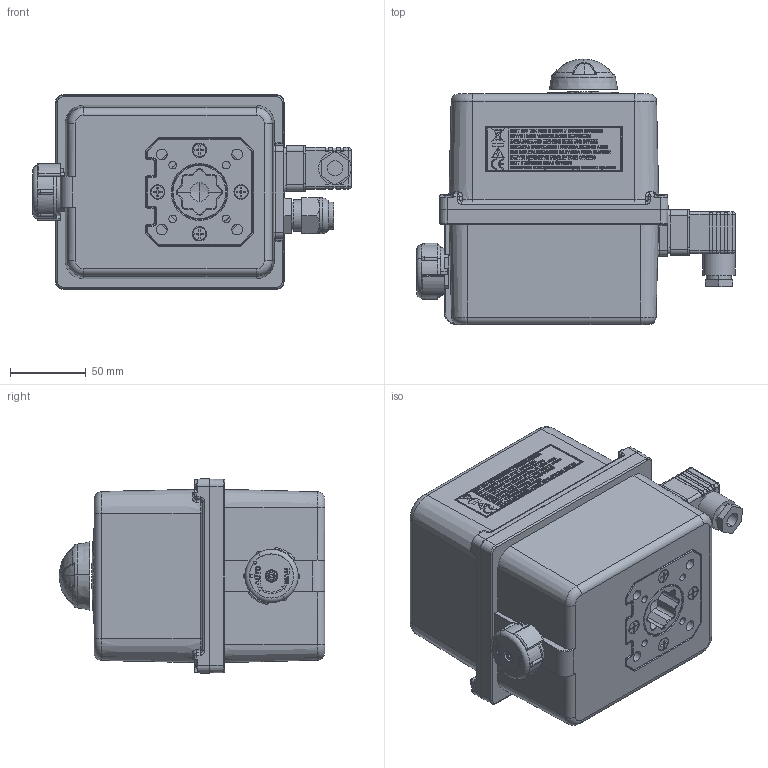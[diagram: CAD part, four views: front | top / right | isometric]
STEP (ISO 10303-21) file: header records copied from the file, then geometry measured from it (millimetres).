
FILE_DESCRIPTION (( 'STEP AP214' ), '1' );
FILE_NAME ('ER35-60-100_PREMIER.PLUS_enveloppe.STEP', '2019-05-07T06:59:47', ( '' ), ( '' ), 'SwSTEP 2.0', 'SolidWorks 2017', '' );
FILE_SCHEMA (( 'AUTOMOTIVE_DESIGN' ));
Length unit declared in the file: millimetre
Products named in the file (1): ER35-60-100_PREMIER.PLUS_enveloppe
Bounding box: 209.65 x 174.9 x 128 mm (x, y, z)
Surface area: 142193.1 mm2 (no closed solid volume)
Topology: 0 solids, 374 shells, 1278 faces, 9928 edges, 8938 vertices
Faces by surface type: plane 780, cylinder 195, cone 92, sphere 74, bspline 73, torus 64
Entity records: 137436 total; most frequent: CARTESIAN_POINT 57403, ORIENTED_EDGE 11704, DIRECTION 10614, EDGE_CURVE 9901, VERTEX_POINT 8938, VECTOR 6272, LINE 6272, B_SPLINE_CURVE_WITH_KNOTS 2638
